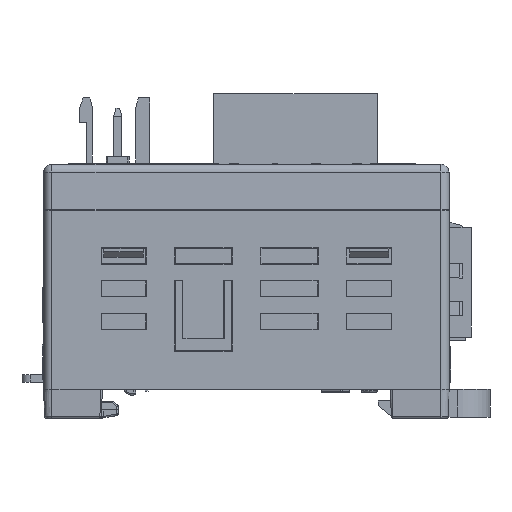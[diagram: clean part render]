
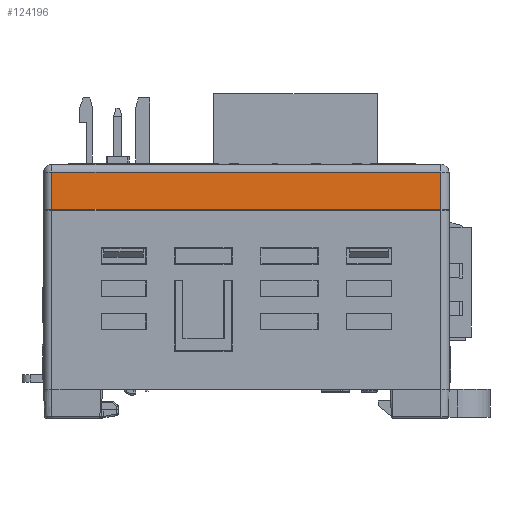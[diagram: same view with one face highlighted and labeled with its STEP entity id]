
A CAD part, left-side view. The second image highlights one B-rep face of the part: STEP entity #124196.
In plain terms, the highlighted planar face has unit normal (-0.999, 0, 0.035).
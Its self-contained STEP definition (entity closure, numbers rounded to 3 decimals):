
#779=CARTESIAN_POINT('',(-29.75,-23.75,25.5));
#920=DIRECTION('',(0.,-1.,0.));
#921=VECTOR('',#920,47.5);
#922=CARTESIAN_POINT('',(-29.592,23.75,30.035));
#923=LINE('',#922,#921);
#939=DIRECTION('',(-0.035,0.,-0.999));
#940=VECTOR('',#939,4.538);
#941=CARTESIAN_POINT('',(-29.592,-23.75,30.035));
#942=LINE('',#941,#940);
#33842=DIRECTION('',(0.035,0.,0.999));
#33843=VECTOR('',#33842,4.538);
#33844=CARTESIAN_POINT('',(-29.75,23.75,
25.5));
#33845=LINE('',#33844,#33843);
#33846=DIRECTION('',(0.,-1.,0.));
#33847=VECTOR('',#33846,47.5);
#33848=CARTESIAN_POINT('',(-29.75,23.75,
25.5));
#33849=LINE('',#33848,#33847);
#45176=VERTEX_POINT('',#779);
#45177=CARTESIAN_POINT('',(-29.75,23.75,
25.5));
#45178=VERTEX_POINT('',#45177);
#45225=CARTESIAN_POINT('',(-29.592,-23.75,
30.035));
#45226=VERTEX_POINT('',#45225);
#45227=CARTESIAN_POINT('',(-29.592,23.75,30.035));
#45228=VERTEX_POINT('',#45227);
#124185=CARTESIAN_POINT('',(-29.671,0.,27.767));
#124186=DIRECTION('',(0.999,0.,-0.035));
#124187=DIRECTION('',(0.,1.,0.));
#124188=AXIS2_PLACEMENT_3D('',#124185,#124186,#124187);
#124189=PLANE('',#124188);
#124190=ORIENTED_EDGE('',*,*,#58066,.T.);
#124191=ORIENTED_EDGE('',*,*,#58108,.T.);
#124192=ORIENTED_EDGE('',*,*,#57733,.F.);
#124193=ORIENTED_EDGE('',*,*,#124171,.T.);
#124194=EDGE_LOOP('',(#124190,#124191,#124192,#124193));
#124195=FACE_OUTER_BOUND('',#124194,.F.);
#124196=ADVANCED_FACE('',(#124195),#124189,.F.);
#57733=EDGE_CURVE('',#45178,#45176,#33849,.T.);
#58066=EDGE_CURVE('',#45228,#45226,#923,.T.);
#58108=EDGE_CURVE('',#45226,#45176,#942,.T.);
#124171=EDGE_CURVE('',#45178,#45228,#33845,.T.);
